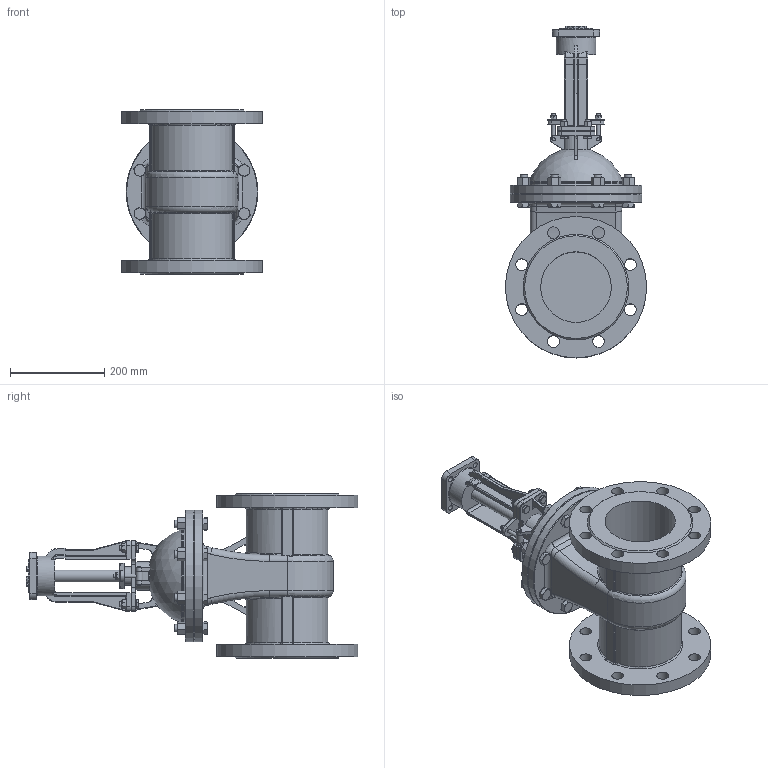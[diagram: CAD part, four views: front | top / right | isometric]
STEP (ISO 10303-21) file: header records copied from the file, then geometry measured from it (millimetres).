
FILE_DESCRIPTION(('STEP AP242'), '1');
FILE_NAME('GVWR2434M-2W-F-ÎÑÒ Çàäâèæêà êëèíîâàÿ ñ âûäâèæíûì øòîêîì Äó150 Ðó25', '2026-05-30T14:12:08', ('R2D2'), (''), 'C3D Converter', 'C3D Toolkit', '');
FILE_SCHEMA(('AP242_MANAGED_MODEL_BASED_3D_ENGINEERING_MIM_LF { 1 0 10303 442 1 1 4 }'));
Length unit declared in the file: millimetre
Products named in the file (1): GVWR2434M-2W-F-ОСТ
Bounding box: 300 x 705 x 350 mm (x, y, z)
Volume: 13770186.8 mm3; surface area: 1043619.5 mm2
Topology: 1 solids, 1 shells, 1296 faces, 3195 edges, 1967 vertices
Faces by surface type: plane 541, cone 260, cylinder 232, extrusion 108, bspline 79, torus 67, sphere 5, revolution 4
Full cylindrical faces by diameter (mm): 7 x4, 8 x4, 10 x8, 12 x4, 15 x2, 16 x20, 24 x4, 25 x18, 30 x1, 32 x1, 40 x1, 50 x1, 52 x1, 70 x1, 84.405 x1, 150 x2, 200 x2, 280 x2, 300 x2
Entity records: 72203 total; most frequent: CARTESIAN_POINT 33054, ORIENTED_EDGE 6164, DIRECTION 5288, EDGE_CURVE 3082, AXIS2_PLACEMENT_3D 2003, VERTEX_POINT 1965, EDGE_LOOP 1553, FACE_BOUND 1403
